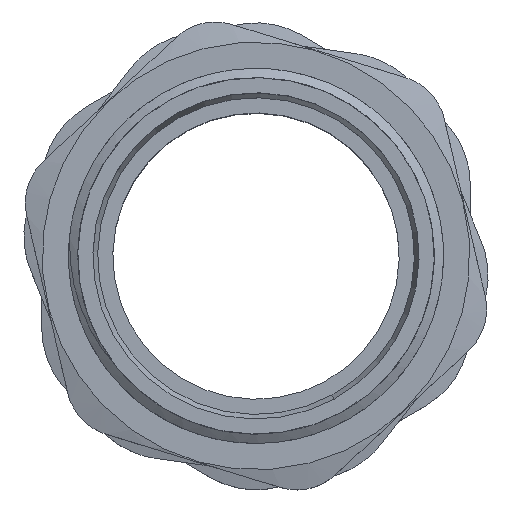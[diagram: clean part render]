
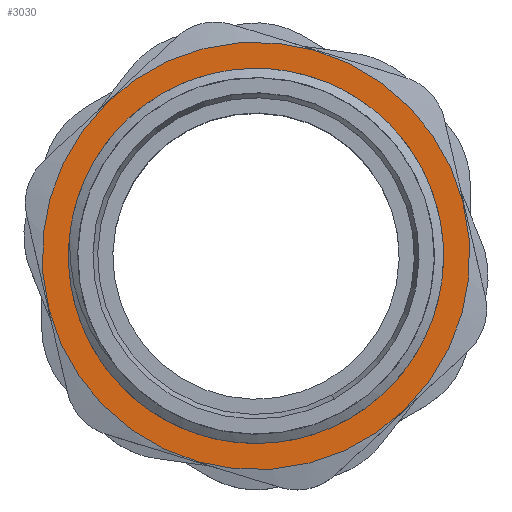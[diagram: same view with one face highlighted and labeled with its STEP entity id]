
A CAD part, top view. The second image highlights one B-rep face of the part: STEP entity #3030.
In plain terms, the highlighted planar face has unit normal (0, 0, 1).
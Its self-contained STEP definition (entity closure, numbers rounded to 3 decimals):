
#2933=CARTESIAN_POINT('Axis2P3D Location',(0.,0.,-4.7)) ;
#2938=CARTESIAN_POINT('Axis2P3D Location',(0.,0.,-4.7)) ;
#2942=CARTESIAN_POINT('Vertex',(15.765,-16.125,-4.7)) ;
#2944=CARTESIAN_POINT('Vertex',(-15.765,16.125,-4.7)) ;
#2947=CARTESIAN_POINT('Axis2P3D Location',(0.,0.,-4.7)) ;
#2956=CARTESIAN_POINT('Axis2P3D Location',(0.,0.,-4.7)) ;
#2960=CARTESIAN_POINT('Vertex',(9.013,-16.499,-4.7)) ;
#2962=CARTESIAN_POINT('Vertex',(-9.827,16.027,-4.7)) ;
#2966=CARTESIAN_POINT('Control Point',(-9.827,16.027,-4.7)) ;
#2967=CARTESIAN_POINT('Control Point',(-9.734,16.086,-4.7)) ;
#2968=CARTESIAN_POINT('Control Point',(-9.641,16.145,-4.7)) ;
#2969=CARTESIAN_POINT('Control Point',(-9.547,16.203,-4.7)) ;
#2970=CARTESIAN_POINT('Control Point',(-9.332,16.334,-4.7)) ;
#2971=CARTESIAN_POINT('Control Point',(-9.114,16.461,-4.7)) ;
#2972=CARTESIAN_POINT('Control Point',(-8.991,16.532,-4.7)) ;
#2973=CARTESIAN_POINT('Control Point',(-8.743,16.67,-4.7)) ;
#2974=CARTESIAN_POINT('Control Point',(-8.493,16.805,-4.7)) ;
#2975=CARTESIAN_POINT('Control Point',(-8.367,16.87,-4.7)) ;
#2976=CARTESIAN_POINT('Control Point',(-7.82,17.15,-4.7)) ;
#2977=CARTESIAN_POINT('Control Point',(-7.261,17.408,-4.7)) ;
#2978=CARTESIAN_POINT('Control Point',(-6.824,17.594,-4.7)) ;
#2979=CARTESIAN_POINT('Control Point',(-6.366,17.771,-4.7)) ;
#2980=CARTESIAN_POINT('Control Point',(-5.902,17.933,-4.7)) ;
#2981=CARTESIAN_POINT('Control Point',(-5.885,17.939,-4.7)) ;
#2982=CARTESIAN_POINT('Control Point',(-5.852,17.951,-4.7)) ;
#2983=CARTESIAN_POINT('Control Point',(-5.817,17.963,-4.7)) ;
#2984=CARTESIAN_POINT('Control Point',(-5.798,17.969,-4.7)) ;
#2985=CARTESIAN_POINT('Control Point',(-5.762,17.982,-4.7)) ;
#2986=CARTESIAN_POINT('Control Point',(-5.724,17.995,-4.7)) ;
#2987=CARTESIAN_POINT('Control Point',(-5.704,18.001,-4.7)) ;
#2988=CARTESIAN_POINT('Control Point',(-5.666,18.014,-4.7)) ;
#2989=CARTESIAN_POINT('Control Point',(-5.627,18.027,-4.7)) ;
#2990=CARTESIAN_POINT('Control Point',(-5.608,18.033,-4.7)) ;
#2991=CARTESIAN_POINT('Control Point',(-5.579,18.043,-4.7)) ;
#2992=CARTESIAN_POINT('Control Point',(-5.551,18.052,-4.7)) ;
#2993=CARTESIAN_POINT('Control Point',(-5.542,18.055,-4.7)) ;
#2994=CARTESIAN_POINT('Control Point',(-5.524,18.061,-4.7)) ;
#2995=CARTESIAN_POINT('Control Point',(-5.506,18.066,-4.7)) ;
#2996=CARTESIAN_POINT('Control Point',(-5.499,18.069,-4.7)) ;
#2997=CARTESIAN_POINT('Control Point',(-5.48,18.075,-4.7)) ;
#2998=CARTESIAN_POINT('Control Point',(-5.458,18.082,-4.7)) ;
#2999=CARTESIAN_POINT('Control Point',(-5.447,18.085,-4.7)) ;
#3000=CARTESIAN_POINT('Control Point',(-5.425,18.092,-4.7)) ;
#3001=CARTESIAN_POINT('Control Point',(-5.404,18.097,-4.7)) ;
#3002=CARTESIAN_POINT('Control Point',(-5.395,18.1,-4.7)) ;
#3003=CARTESIAN_POINT('Control Point',(-5.369,18.106,-4.7)) ;
#3004=CARTESIAN_POINT('Control Point',(-5.343,18.113,-4.7)) ;
#3005=CARTESIAN_POINT('Control Point',(-5.325,18.117,-4.7)) ;
#3006=CARTESIAN_POINT('Control Point',(-5.291,18.126,-4.7)) ;
#3007=CARTESIAN_POINT('Control Point',(-5.257,18.135,-4.7)) ;
#3008=CARTESIAN_POINT('Control Point',(-5.24,18.139,-4.7)) ;
#3009=CARTESIAN_POINT('Control Point',(-5.084,18.177,-4.7)) ;
#3010=CARTESIAN_POINT('Control Point',(-4.928,18.214,-4.7)) ;
#3011=CARTESIAN_POINT('Control Point',(-4.789,18.245,-4.7)) ;
#3012=CARTESIAN_POINT('Control Point',(-4.399,18.329,-4.7)) ;
#3013=CARTESIAN_POINT('Control Point',(-4.006,18.402,-4.7)) ;
#3014=CARTESIAN_POINT('Control Point',(-3.753,18.445,-4.7)) ;
#3015=CARTESIAN_POINT('Control Point',(-3.498,18.484,-4.7)) ;
#3016=CARTESIAN_POINT('Control Point',(-3.244,18.518,-4.7)) ;
#3017=CARTESIAN_POINT('Vertex',(-3.244,18.518,-4.7)) ;
#3020=CARTESIAN_POINT('Axis2P3D Location',(0.,0.,-4.7)) ;
#2934=DIRECTION('Axis2P3D Direction',(0.,-0.,-1.)) ;
#2935=DIRECTION('Axis2P3D XDirection',(0.988,-0.156,0.)) ;
#2939=DIRECTION('Axis2P3D Direction',(0.,-0.,-1.)) ;
#2948=DIRECTION('Axis2P3D Direction',(0.,-0.,-1.)) ;
#2957=DIRECTION('Axis2P3D Direction',(0.,-0.,-1.)) ;
#3021=DIRECTION('Axis2P3D Direction',(0.,-0.,-1.)) ;
#2936=AXIS2_PLACEMENT_3D('Plane Axis2P3D',#2933,#2934,#2935) ;
#2940=AXIS2_PLACEMENT_3D('Circle Axis2P3D',#2938,#2939,$) ;
#2949=AXIS2_PLACEMENT_3D('Circle Axis2P3D',#2947,#2948,$) ;
#2958=AXIS2_PLACEMENT_3D('Circle Axis2P3D',#2956,#2957,$) ;
#3022=AXIS2_PLACEMENT_3D('Circle Axis2P3D',#3020,#3021,$) ;
#2953=ORIENTED_EDGE('',*,*,#2946,.F.) ;
#2954=ORIENTED_EDGE('',*,*,#2951,.F.) ;
#3026=ORIENTED_EDGE('',*,*,#2964,.T.) ;
#3027=ORIENTED_EDGE('',*,*,#3019,.T.) ;
#3028=ORIENTED_EDGE('',*,*,#3024,.T.) ;
#3029=FACE_BOUND('',#3025,.T.) ;
#3030=ADVANCED_FACE('\X2\51E04F554F53\X0\.2',(#2955,#3029),#2937,.F.) ;
#2965=B_SPLINE_CURVE_WITH_KNOTS('',5,(#2966,#2967,#2968,#2969,#2970,#2971,#2972,#2973,#2974,#2975,#2976,#2977,#2978,#2979,#2980,#2981,#2982,#2983,#2984,#2985,#2986,#2987,#2988,#2989,#2990,#2991,#2992,#2993,#2994,#2995,#2996,#2997,#2998,#2999,#3000,#3001,#3002,#3003,#3004,#3005,#3006,#3007,#3008,#3009,#3010,#3011,#3012,#3013,#3014,#3015,#3016),.UNSPECIFIED.,.F.,.U.,(6,3,3,3,3,3,3,3,3,3,3,3,3,3,3,3,6),(3.228,4.005,5.007,6.008,9.342,9.468,9.594,9.719,9.845,9.908,9.971,10.034,10.098,10.223,10.349,11.352,13.16),.UNSPECIFIED.) ;
#2941=CIRCLE('generated circle',#2940,22.551) ;
#2950=CIRCLE('generated circle',#2949,22.551) ;
#2959=CIRCLE('generated circle',#2958,18.8) ;
#3023=CIRCLE('generated circle',#3022,18.8) ;
#2946=EDGE_CURVE('',#2943,#2945,#2941,.T.) ;
#2951=EDGE_CURVE('',#2945,#2943,#2950,.T.) ;
#2964=EDGE_CURVE('',#2961,#2963,#2959,.T.) ;
#3019=EDGE_CURVE('',#2963,#3018,#2965,.T.) ;
#3024=EDGE_CURVE('',#3018,#2961,#3023,.T.) ;
#2952=EDGE_LOOP('',(#2953,#2954)) ;
#3025=EDGE_LOOP('',(#3026,#3027,#3028)) ;
#2955=FACE_OUTER_BOUND('',#2952,.T.) ;
#2937=PLANE('',#2936) ;
#2943=VERTEX_POINT('',#2942) ;
#2945=VERTEX_POINT('',#2944) ;
#2961=VERTEX_POINT('',#2960) ;
#2963=VERTEX_POINT('',#2962) ;
#3018=VERTEX_POINT('',#3017) ;
